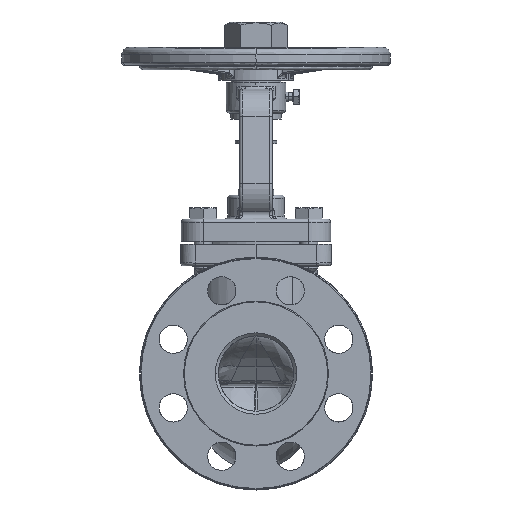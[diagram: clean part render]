
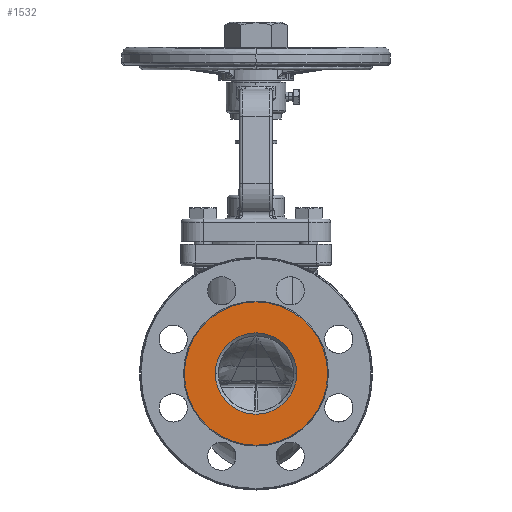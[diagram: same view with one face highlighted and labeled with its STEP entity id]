
A CAD part, left-side view. The second image highlights one B-rep face of the part: STEP entity #1532.
In plain terms, the highlighted planar face has unit normal (-1, 0, 0).
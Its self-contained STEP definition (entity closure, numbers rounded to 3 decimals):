
#1532=ADVANCED_FACE('',(#12845,#12846),#12844,.F.);
#12844=PLANE('',#33887);
#12845=FACE_OUTER_BOUND('',#33888,.T.);
#12846=FACE_BOUND('',#33889,.T.);
#33884=CARTESIAN_POINT('',(-115.,-93.138,106.));
#33885=DIRECTION('',(1.,0.,0.));
#33886=DIRECTION('',(0.,0.,-1.));
#33887=AXIS2_PLACEMENT_3D('',#33884,#33885,#33886);
#33888=EDGE_LOOP('',(#64666,#64667));
#33889=EDGE_LOOP('',(#64668,#64669));
#64666=ORIENTED_EDGE('',*,*,#70934,.F.);
#64667=ORIENTED_EDGE('',*,*,#70935,.F.);
#64668=ORIENTED_EDGE('',*,*,#70936,.T.);
#64669=ORIENTED_EDGE('',*,*,#70937,.T.);
#70934=EDGE_CURVE('',#90340,#90341,#90342,.T.);
#70935=EDGE_CURVE('',#90341,#90340,#90348,.T.);
#70936=EDGE_CURVE('',#90354,#90355,#90356,.T.);
#70937=EDGE_CURVE('',#90355,#90354,#90362,.T.);
#90340=VERTEX_POINT('',#117311);
#90341=VERTEX_POINT('',#117312);
#90342=CIRCLE('',#117316,48.);
#90348=CIRCLE('',#117320,48.);
#90354=VERTEX_POINT('',#117321);
#90355=VERTEX_POINT('',#117322);
#90356=CIRCLE('',#117326,27.25);
#90362=CIRCLE('',#117330,27.25);
#117311=CARTESIAN_POINT('',(-115.,0.,48.));
#117312=CARTESIAN_POINT('',(-115.,0.,-48.));
#117313=CARTESIAN_POINT('',(-115.,0.,0.));
#117314=DIRECTION('',(1.,0.,0.));
#117315=DIRECTION('',(0.,0.,-1.));
#117316=AXIS2_PLACEMENT_3D('',#117313,#117314,#117315);
#117317=CARTESIAN_POINT('',(-115.,0.,0.));
#117318=DIRECTION('',(1.,0.,0.));
#117319=DIRECTION('',(0.,0.,-1.));
#117320=AXIS2_PLACEMENT_3D('',#117317,#117318,#117319);
#117321=CARTESIAN_POINT('',(-115.,0.,-27.25));
#117322=CARTESIAN_POINT('',(-115.,0.,27.25));
#117323=CARTESIAN_POINT('',(-115.,0.,0.));
#117324=DIRECTION('',(1.,0.,0.));
#117325=DIRECTION('',(0.,0.,-1.));
#117326=AXIS2_PLACEMENT_3D('',#117323,#117324,#117325);
#117327=CARTESIAN_POINT('',(-115.,0.,0.));
#117328=DIRECTION('',(1.,0.,0.));
#117329=DIRECTION('',(0.,0.,-1.));
#117330=AXIS2_PLACEMENT_3D('',#117327,#117328,#117329);
